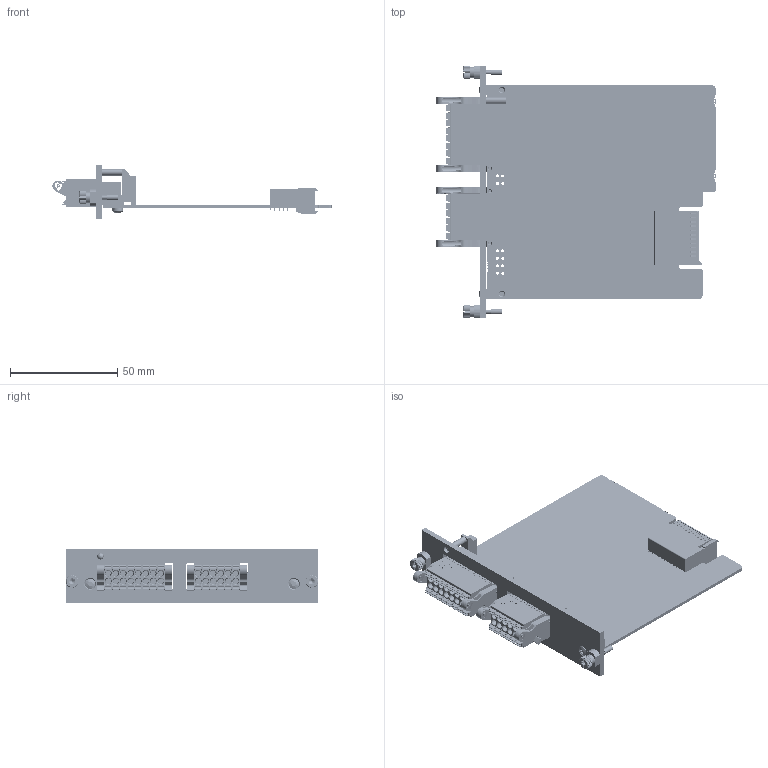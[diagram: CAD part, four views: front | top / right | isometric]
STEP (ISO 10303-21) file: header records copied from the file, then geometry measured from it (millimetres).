
FILE_DESCRIPTION(/* description */ (''),/* implementation_level */ '2;1');
FILE_NAME(/* name */ 'TIM6.1_3D CAD_20250313.stp',/* time_stamp */ '2025-03-13T14:18:30+01:00',/* author */ ('DSP'),/* organization */ (''),/* preprocessor_version */ 'ST-DEVELOPER v19.2',/* originating_system */ 'Autodesk Inventor 2023',/* authorisation */ '');
FILE_SCHEMA (('AUTOMOTIVE_DESIGN { 1 0 10303 214 3 1 1 }'));
Products named in the file (1): TIM6.1_3D CAD_SMPL_20250313
Bounding box: 130.44 x 117.85 x 25.06 mm (x, y, z)
Volume: 43293.2 mm3; surface area: 53441.6 mm2
Topology: 12 solids, 12 shells, 14010 faces, 40006 edges, 26055 vertices
Faces by surface type: plane 9181, cylinder 3608, bspline 614, cone 404, torus 187, sphere 16
Full cylindrical faces by diameter (mm): 0.6 x8, 0.7 x66, 1 x2, 1.2 x14, 1.4 x46, 1.57 x4, 1.59 x2, 2 x2, 2.15 x4, 2.3 x8, 2.5 x4, 2.9 x2, 2.997 x1, 3 x28, 3.2 x1, 4.7 x2, 5 x4
Entity records: 526483 total; most frequent: CARTESIAN_POINT 144547, ORIENTED_EDGE 79810, DIRECTION 73885, EDGE_CURVE 39905, LINE 28645, VECTOR 28645, VERTEX_POINT 26055, AXIS2_PLACEMENT_3D 22620
